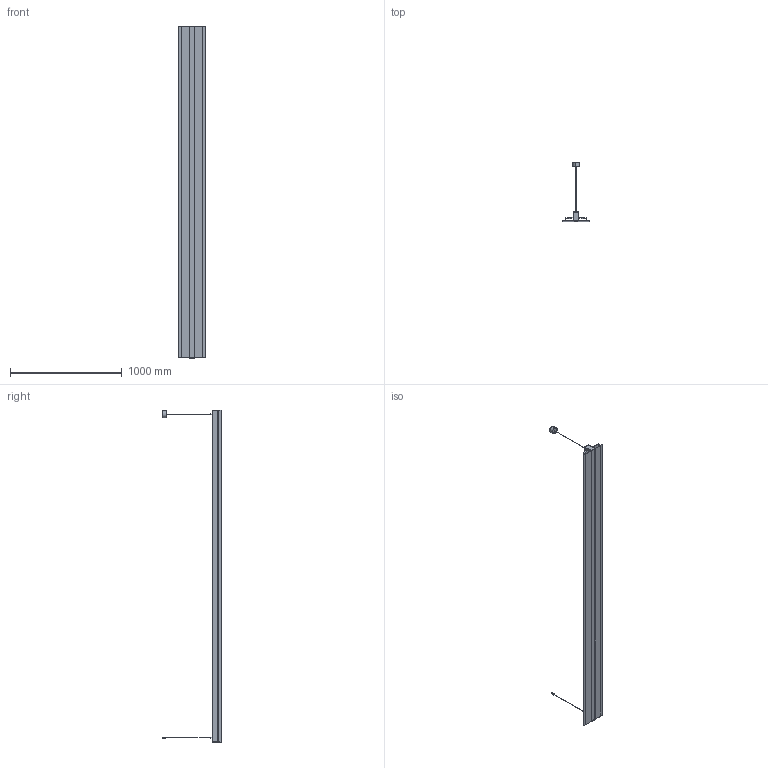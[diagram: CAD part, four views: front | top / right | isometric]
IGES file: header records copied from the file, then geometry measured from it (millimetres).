
Start section: SolidWorks IGES file using analytic representation for surfaces
Global section: file name: C:\Users\JoãoSantos\Desktop\02_3D.2D\01_2020\02_Linear\12_MGB\01_MGB_PendantIndirect\MGB_PENDANT_INDIRECT_2970.IGS; native system: SolidWorks 2020; preprocessor: SolidWorks 2020; author: JoãoSantos; date: 201022.164210; units: millimetre
Bounding box: 236.5 x 523.5 x 2970.4 mm (x, y, z)
Surface area: 3895599.9 mm2 (no closed solid volume)
Topology: 0 solids, 0 shells, 246 faces, 2736 edges, 2736 vertices
Faces by surface type: bspline 172, revolution 74
